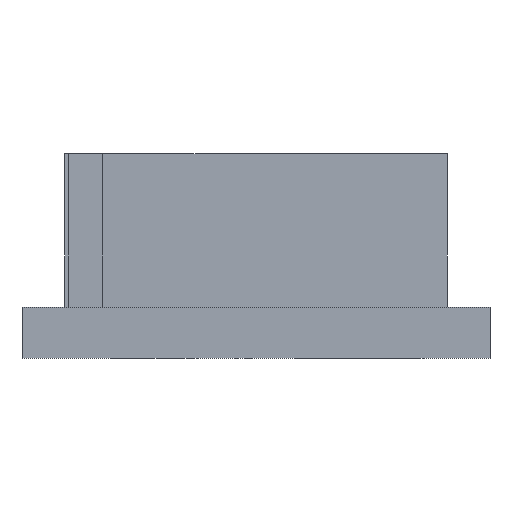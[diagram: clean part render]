
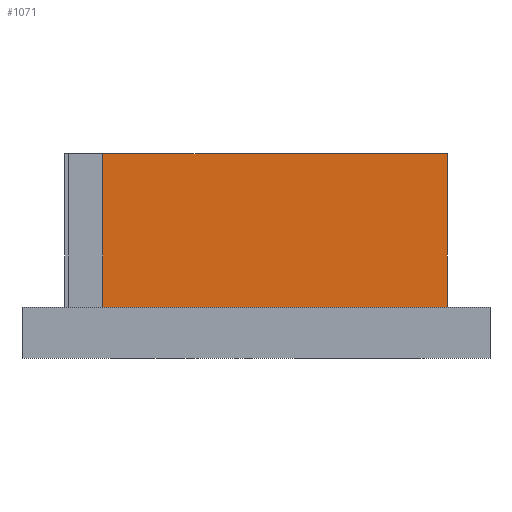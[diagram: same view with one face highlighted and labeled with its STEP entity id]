
A CAD part, front view. The second image highlights one B-rep face of the part: STEP entity #1071.
In plain terms, the highlighted planar face has unit normal (0, -1, 0).
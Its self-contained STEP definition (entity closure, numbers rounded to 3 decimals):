
#126 = PLANE('',#127);
#127 = AXIS2_PLACEMENT_3D('',#128,#129,#130);
#128 = CARTESIAN_POINT('',(-27.5,-27.5,6.));
#129 = DIRECTION('',(0.,0.,1.));
#130 = DIRECTION('',(1.,0.,0.));
#268 = VERTEX_POINT('',#269);
#269 = CARTESIAN_POINT('',(-18.,-22.,6.));
#283 = PLANE('',#284);
#284 = AXIS2_PLACEMENT_3D('',#285,#286,#287);
#285 = CARTESIAN_POINT('',(-18.,-22.5,0.));
#286 = DIRECTION('',(1.,0.,0.));
#287 = DIRECTION('',(0.,0.,1.));
#548 = VERTEX_POINT('',#549);
#549 = CARTESIAN_POINT('',(22.5,-22.,6.));
#563 = PLANE('',#564);
#564 = AXIS2_PLACEMENT_3D('',#565,#566,#567);
#565 = CARTESIAN_POINT('',(22.5,-22.,0.));
#566 = DIRECTION('',(1.,0.,0.));
#567 = DIRECTION('',(0.,0.,1.));
#575 = EDGE_CURVE('',#548,#268,#576,.T.);
#576 = SURFACE_CURVE('',#577,(#581,#588),.PCURVE_S1.);
#577 = LINE('',#578,#579);
#578 = CARTESIAN_POINT('',(-25.,-22.,6.));
#579 = VECTOR('',#580,1.);
#580 = DIRECTION('',(-1.,0.,0.));
#581 = PCURVE('',#126,#582);
#582 = DEFINITIONAL_REPRESENTATION('',(#583),#587);
#583 = LINE('',#584,#585);
#584 = CARTESIAN_POINT('',(2.5,5.5));
#585 = VECTOR('',#586,1.);
#586 = DIRECTION('',(-1.,0.));
#587 = ( GEOMETRIC_REPRESENTATION_CONTEXT(2) 
PARAMETRIC_REPRESENTATION_CONTEXT() REPRESENTATION_CONTEXT('2D SPACE',''
  ) );
#588 = PCURVE('',#589,#594);
#589 = PLANE('',#590);
#590 = AXIS2_PLACEMENT_3D('',#591,#592,#593);
#591 = CARTESIAN_POINT('',(-22.5,-22.,0.));
#592 = DIRECTION('',(0.,1.,0.));
#593 = DIRECTION('',(0.,0.,1.));
#594 = DEFINITIONAL_REPRESENTATION('',(#595),#599);
#595 = LINE('',#596,#597);
#596 = CARTESIAN_POINT('',(6.,-2.5));
#597 = VECTOR('',#598,1.);
#598 = DIRECTION('',(0.,-1.));
#599 = ( GEOMETRIC_REPRESENTATION_CONTEXT(2) 
PARAMETRIC_REPRESENTATION_CONTEXT() REPRESENTATION_CONTEXT('2D SPACE',''
  ) );
#974 = EDGE_CURVE('',#268,#975,#977,.T.);
#975 = VERTEX_POINT('',#976);
#976 = CARTESIAN_POINT('',(-18.,-22.,24.));
#977 = SURFACE_CURVE('',#978,(#982,#989),.PCURVE_S1.);
#978 = LINE('',#979,#980);
#979 = CARTESIAN_POINT('',(-18.,-22.,0.));
#980 = VECTOR('',#981,1.);
#981 = DIRECTION('',(0.,0.,1.));
#982 = PCURVE('',#283,#983);
#983 = DEFINITIONAL_REPRESENTATION('',(#984),#988);
#984 = LINE('',#985,#986);
#985 = CARTESIAN_POINT('',(0.,-0.5));
#986 = VECTOR('',#987,1.);
#987 = DIRECTION('',(1.,0.));
#988 = ( GEOMETRIC_REPRESENTATION_CONTEXT(2) 
PARAMETRIC_REPRESENTATION_CONTEXT() REPRESENTATION_CONTEXT('2D SPACE',''
  ) );
#989 = PCURVE('',#589,#990);
#990 = DEFINITIONAL_REPRESENTATION('',(#991),#995);
#991 = LINE('',#992,#993);
#992 = CARTESIAN_POINT('',(0.,4.5));
#993 = VECTOR('',#994,1.);
#994 = DIRECTION('',(1.,0.));
#995 = ( GEOMETRIC_REPRESENTATION_CONTEXT(2) 
PARAMETRIC_REPRESENTATION_CONTEXT() REPRESENTATION_CONTEXT('2D SPACE',''
  ) );
#1011 = PLANE('',#1012);
#1012 = AXIS2_PLACEMENT_3D('',#1013,#1014,#1015);
#1013 = CARTESIAN_POINT('',(-22.,-22.5,24.));
#1014 = DIRECTION('',(0.,0.,1.));
#1015 = DIRECTION('',(1.,0.,0.));
#1071 = ADVANCED_FACE('',(#1072),#589,.F.);
#1072 = FACE_BOUND('',#1073,.F.);
#1073 = EDGE_LOOP('',(#1074,#1097,#1098,#1099));
#1074 = ORIENTED_EDGE('',*,*,#1075,.F.);
#1075 = EDGE_CURVE('',#548,#1076,#1078,.T.);
#1076 = VERTEX_POINT('',#1077);
#1077 = CARTESIAN_POINT('',(22.5,-22.,24.));
#1078 = SURFACE_CURVE('',#1079,(#1083,#1090),.PCURVE_S1.);
#1079 = LINE('',#1080,#1081);
#1080 = CARTESIAN_POINT('',(22.5,-22.,0.));
#1081 = VECTOR('',#1082,1.);
#1082 = DIRECTION('',(0.,0.,1.));
#1083 = PCURVE('',#589,#1084);
#1084 = DEFINITIONAL_REPRESENTATION('',(#1085),#1089);
#1085 = LINE('',#1086,#1087);
#1086 = CARTESIAN_POINT('',(0.,45.));
#1087 = VECTOR('',#1088,1.);
#1088 = DIRECTION('',(1.,0.));
#1089 = ( GEOMETRIC_REPRESENTATION_CONTEXT(2) 
PARAMETRIC_REPRESENTATION_CONTEXT() REPRESENTATION_CONTEXT('2D SPACE',''
  ) );
#1090 = PCURVE('',#563,#1091);
#1091 = DEFINITIONAL_REPRESENTATION('',(#1092),#1096);
#1092 = LINE('',#1093,#1094);
#1093 = CARTESIAN_POINT('',(0.,0.));
#1094 = VECTOR('',#1095,1.);
#1095 = DIRECTION('',(1.,0.));
#1096 = ( GEOMETRIC_REPRESENTATION_CONTEXT(2) 
PARAMETRIC_REPRESENTATION_CONTEXT() REPRESENTATION_CONTEXT('2D SPACE',''
  ) );
#1097 = ORIENTED_EDGE('',*,*,#575,.T.);
#1098 = ORIENTED_EDGE('',*,*,#974,.T.);
#1099 = ORIENTED_EDGE('',*,*,#1100,.T.);
#1100 = EDGE_CURVE('',#975,#1076,#1101,.T.);
#1101 = SURFACE_CURVE('',#1102,(#1106,#1113),.PCURVE_S1.);
#1102 = LINE('',#1103,#1104);
#1103 = CARTESIAN_POINT('',(-22.5,-22.,24.));
#1104 = VECTOR('',#1105,1.);
#1105 = DIRECTION('',(1.,0.,0.));
#1106 = PCURVE('',#589,#1107);
#1107 = DEFINITIONAL_REPRESENTATION('',(#1108),#1112);
#1108 = LINE('',#1109,#1110);
#1109 = CARTESIAN_POINT('',(24.,0.));
#1110 = VECTOR('',#1111,1.);
#1111 = DIRECTION('',(0.,1.));
#1112 = ( GEOMETRIC_REPRESENTATION_CONTEXT(2) 
PARAMETRIC_REPRESENTATION_CONTEXT() REPRESENTATION_CONTEXT('2D SPACE',''
  ) );
#1113 = PCURVE('',#1011,#1114);
#1114 = DEFINITIONAL_REPRESENTATION('',(#1115),#1119);
#1115 = LINE('',#1116,#1117);
#1116 = CARTESIAN_POINT('',(-0.5,0.5));
#1117 = VECTOR('',#1118,1.);
#1118 = DIRECTION('',(1.,0.));
#1119 = ( GEOMETRIC_REPRESENTATION_CONTEXT(2) 
PARAMETRIC_REPRESENTATION_CONTEXT() REPRESENTATION_CONTEXT('2D SPACE',''
  ) );
